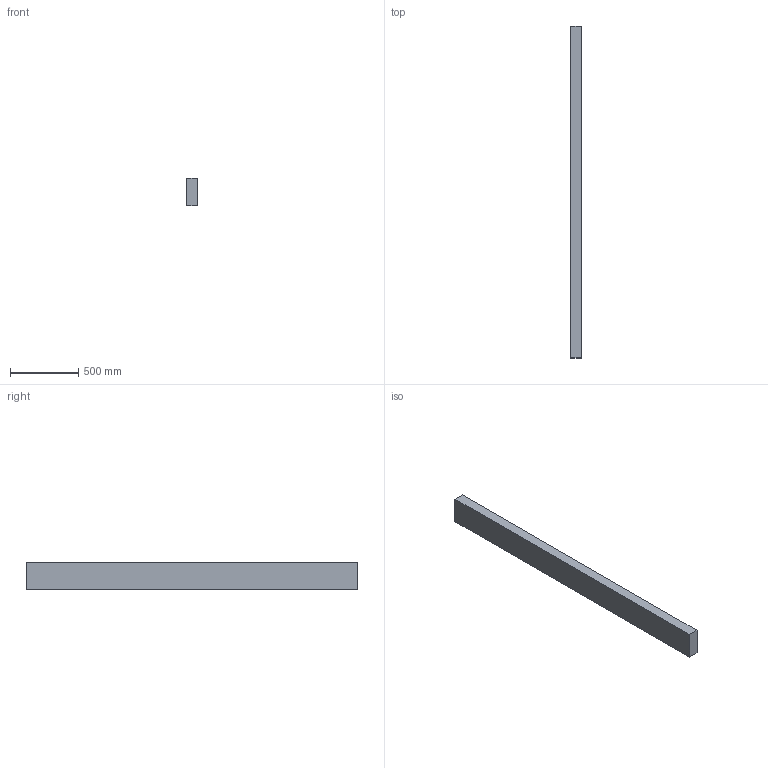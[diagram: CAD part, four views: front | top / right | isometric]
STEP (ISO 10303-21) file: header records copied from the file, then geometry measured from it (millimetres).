
FILE_DESCRIPTION(/* description */ (''),/* implementation_level */ '2;1');
FILE_NAME(/* name */ '3x8x96',/* time_stamp */ '2024-09-20T11:43:56-05:00',/* author */ (''),/* organization */ (''),/* preprocessor_version */ 'ST-DEVELOPER v19.2',/* originating_system */ 'Rhino 8.5',/* authorisation */ '');
FILE_SCHEMA (('CONFIG_CONTROL_DESIGN'));
Length unit declared in the file: inch
Products named in the file (1): Document
Bounding box: 76.2 x 2438.4 x 203.2 mm (x, y, z)
Volume: 37755795.5 mm3; surface area: 1393545.6 mm2
Topology: 1 solids, 1 shells, 6 faces, 12 edges, 8 vertices
Faces by surface type: plane 6
Entity records: 226 total; most frequent: CARTESIAN_POINT 40, ORIENTED_EDGE 24, EDGE_CURVE 12, B_SPLINE_CURVE_WITH_KNOTS 12, DIRECTION 10, VERTEX_POINT 8, AXIS2_PLACEMENT_3D 8, ORGANIZATION 7
